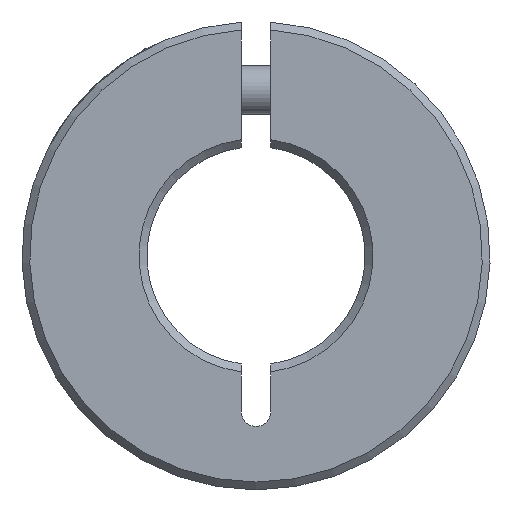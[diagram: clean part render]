
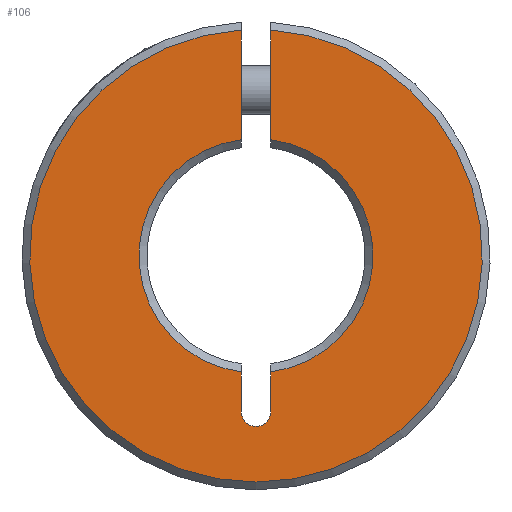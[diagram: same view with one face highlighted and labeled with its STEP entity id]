
A CAD part, left-side view. The second image highlights one B-rep face of the part: STEP entity #106.
In plain terms, the highlighted planar face has unit normal (-1, 0, 0).
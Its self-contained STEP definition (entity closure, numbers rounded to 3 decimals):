
#106 = ADVANCED_FACE( '', ( #180 ), #181, .F. );
#180 = FACE_OUTER_BOUND( '', #257, .T. );
#181 = PLANE( '', #258 );
#257 = EDGE_LOOP( '', ( #490, #491, #492, #493, #494, #495, #496, #497 ) );
#258 = AXIS2_PLACEMENT_3D( '', #498, #499, #500 );
#490 = ORIENTED_EDGE( '', *, *, #578, .T. );
#491 = ORIENTED_EDGE( '', *, *, #545, .T. );
#492 = ORIENTED_EDGE( '', *, *, #554, .T. );
#493 = ORIENTED_EDGE( '', *, *, #536, .F. );
#494 = ORIENTED_EDGE( '', *, *, #532, .T. );
#495 = ORIENTED_EDGE( '', *, *, #541, .T. );
#496 = ORIENTED_EDGE( '', *, *, #516, .T. );
#497 = ORIENTED_EDGE( '', *, *, #580, .T. );
#498 = CARTESIAN_POINT( '', ( -7.5, 0., 0. ) );
#499 = DIRECTION( '', ( 1., 0., 0. ) );
#500 = DIRECTION( '', ( 0., 0., -1. ) );
#516 = EDGE_CURVE( '', #609, #607, #610, .T. );
#532 = EDGE_CURVE( '', #626, #639, #641, .T. );
#536 = EDGE_CURVE( '', #626, #647, #648, .T. );
#541 = EDGE_CURVE( '', #639, #609, #654, .T. );
#545 = EDGE_CURVE( '', #661, #659, #662, .T. );
#554 = EDGE_CURVE( '', #659, #647, #673, .T. );
#578 = EDGE_CURVE( '', #714, #661, #715, .T. );
#580 = EDGE_CURVE( '', #607, #714, #717, .T. );
#607 = VERTEX_POINT( '', #734 );
#609 = VERTEX_POINT( '', #737 );
#610 = LINE( '', #738, #739 );
#626 = VERTEX_POINT( '', #835 );
#639 = VERTEX_POINT( '', #860 );
#641 = LINE( '', #865, #866 );
#647 = VERTEX_POINT( '', #875 );
#648 = CIRCLE( '', #876, 23.2 );
#654 = CIRCLE( '', #886, 12. );
#659 = VERTEX_POINT( '', #891 );
#661 = VERTEX_POINT( '', #896 );
#662 = CIRCLE( '', #897, 12. );
#673 = LINE( '', #915, #916 );
#714 = VERTEX_POINT( '', #975 );
#715 = LINE( '', #976, #977 );
#717 = CIRCLE( '', #980, 1.5 );
#734 = CARTESIAN_POINT( '', ( -7.5, -1.5, -16. ) );
#737 = CARTESIAN_POINT( '', ( -7.5, -1.5, -11.906 ) );
#738 = CARTESIAN_POINT( '', ( -7.5, -1.5, 0. ) );
#739 = VECTOR( '', #990, 1000. );
#835 = CARTESIAN_POINT( '', ( -7.5, -1.5, 23.151 ) );
#860 = CARTESIAN_POINT( '', ( -7.5, -1.5, 11.906 ) );
#865 = CARTESIAN_POINT( '', ( -7.5, -1.5, 32. ) );
#866 = VECTOR( '', #1006, 1000. );
#875 = CARTESIAN_POINT( '', ( -7.5, 1.5, 23.151 ) );
#876 = AXIS2_PLACEMENT_3D( '', #1013, #1014, #1015 );
#886 = AXIS2_PLACEMENT_3D( '', #1023, #1024, #1025 );
#891 = CARTESIAN_POINT( '', ( -7.5, 1.5, 11.906 ) );
#896 = CARTESIAN_POINT( '', ( -7.5, 1.5, -11.906 ) );
#897 = AXIS2_PLACEMENT_3D( '', #1032, #1033, #1034 );
#915 = CARTESIAN_POINT( '', ( -7.5, 1.5, 0. ) );
#916 = VECTOR( '', #1048, 1000. );
#975 = CARTESIAN_POINT( '', ( -7.5, 1.5, -16. ) );
#976 = CARTESIAN_POINT( '', ( -7.5, 1.5, -16. ) );
#977 = VECTOR( '', #1082, 1000. );
#980 = AXIS2_PLACEMENT_3D( '', #1084, #1085, #1086 );
#990 = DIRECTION( '', ( 0., 0., -1. ) );
#1006 = DIRECTION( '', ( 0., 0., -1. ) );
#1013 = CARTESIAN_POINT( '', ( -7.5, 0., 0. ) );
#1014 = DIRECTION( '', ( 1., 0., 0. ) );
#1015 = DIRECTION( '', ( 0., 0., -1. ) );
#1023 = CARTESIAN_POINT( '', ( -7.5, 0., 0. ) );
#1024 = DIRECTION( '', ( 1., 0., 0. ) );
#1025 = DIRECTION( '', ( 0., 0., -1. ) );
#1032 = CARTESIAN_POINT( '', ( -7.5, 0., 0. ) );
#1033 = DIRECTION( '', ( 1., 0., 0. ) );
#1034 = DIRECTION( '', ( 0., 0., -1. ) );
#1048 = DIRECTION( '', ( 0., 0., 1. ) );
#1082 = DIRECTION( '', ( 0., 0., 1. ) );
#1084 = CARTESIAN_POINT( '', ( -7.5, 0., -16. ) );
#1085 = DIRECTION( '', ( 1., 0., 0. ) );
#1086 = DIRECTION( '', ( 0., 0., -1. ) );
